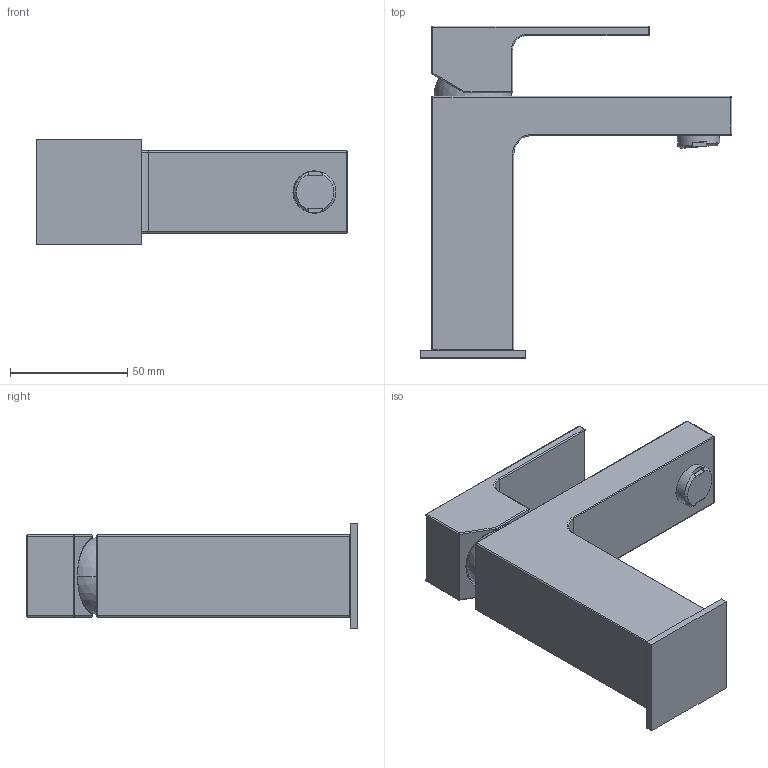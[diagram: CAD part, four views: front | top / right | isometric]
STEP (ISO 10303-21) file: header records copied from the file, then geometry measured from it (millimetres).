
FILE_DESCRIPTION (( 'STEP AP203' ), '1' );
FILE_NAME ('84PW211R.STEP', '2019-12-25T09:12:43', ( '' ), ( '' ), 'SwSTEP 2.0', 'SolidWorks 2019', '' );
FILE_SCHEMA (( 'CONFIG_CONTROL_DESIGN' ));
Length unit declared in the file: millimetre
Products named in the file (1): 84PW211R
Bounding box: 133 x 141.5 x 45 mm (x, y, z)
Volume: 237634.7 mm3; surface area: 41064.5 mm2
Topology: 2 solids, 2 shells, 148 faces, 350 edges, 189 vertices
Faces by surface type: cylinder 65, plane 31, sphere 26, torus 15, bspline 8, cone 3
Entity records: 4424 total; most frequent: CARTESIAN_POINT 1124, DIRECTION 714, ORIENTED_EDGE 652, EDGE_CURVE 326, AXIS2_PLACEMENT_3D 288, VERTEX_POINT 185, EDGE_LOOP 151, ADVANCED_FACE 148
